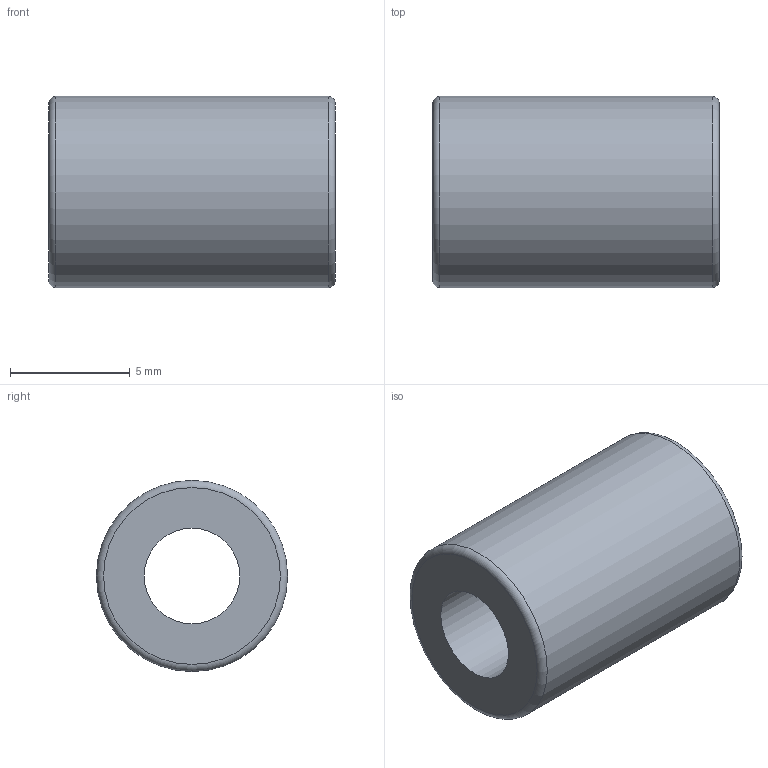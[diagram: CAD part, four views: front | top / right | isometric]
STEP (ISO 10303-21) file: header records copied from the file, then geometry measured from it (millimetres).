
FILE_DESCRIPTION(('STEP AP203'),'1');
FILE_NAME('//192.168.1.1/share/s-4 技術開発/s-4-13_CAD/03_見直し済み/001 修正済み/N-V/N-V_STEP/N-4V.step','2020-04-07T04:36:43',(' '),(' '),'Spatial InterOp 3D',' ',' ');
FILE_SCHEMA(('CONFIG_CONTROL_DESIGN'));
Length unit declared in the file: millimetre
Products named in the file (1): 1
Bounding box: 12 x 8 x 8 mm (x, y, z)
Volume: 451.4 mm3; surface area: 521.2 mm2
Topology: 1 solids, 1 shells, 6 faces, 10 edges, 6 vertices
Faces by surface type: plane 2, cylinder 2, torus 2
Full cylindrical faces by diameter (mm): 4 x1, 8 x1
Entity records: 172 total; most frequent: DIRECTION 26, CARTESIAN_POINT 19, AXIS2_PLACEMENT_3D 13, EDGE_LOOP 12, ORIENTED_EDGE 12, FACE_OUTER_BOUND 10, ADVANCED_FACE 6, EDGE_CURVE 6
